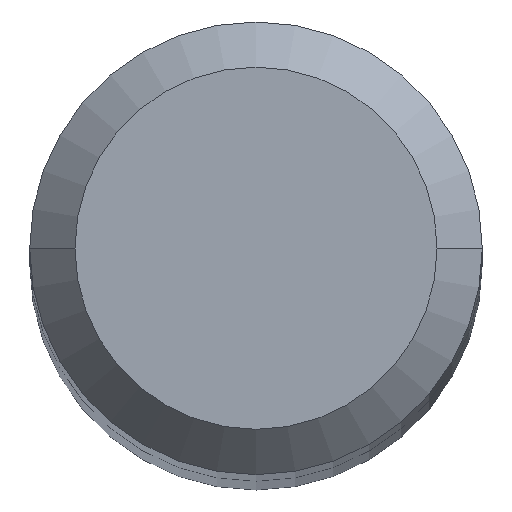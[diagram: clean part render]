
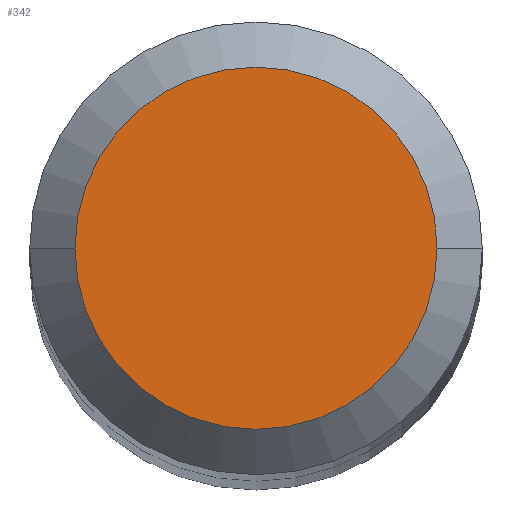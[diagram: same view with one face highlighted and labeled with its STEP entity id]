
A CAD part, top view. The second image highlights one B-rep face of the part: STEP entity #342.
In plain terms, the highlighted planar face has unit normal (0, 0, 1).
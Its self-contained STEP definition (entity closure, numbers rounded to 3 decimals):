
#33 = ORIENTED_EDGE ( 'NONE', *, *, #471, .F. ) ;
#39 = AXIS2_PLACEMENT_3D ( 'NONE', #88, #293, #409 ) ;
#43 = DIRECTION ( 'NONE',  ( 0., 0., -1. ) ) ;
#88 = CARTESIAN_POINT ( 'NONE',  ( 0., 2.4, 0. ) ) ;
#117 = DIRECTION ( 'NONE',  ( -1., 0., 0. ) ) ;
#174 = CIRCLE ( 'NONE', #351, 2.4 ) ;
#202 = FACE_OUTER_BOUND ( 'NONE', #234, .T. ) ;
#220 = CARTESIAN_POINT ( 'NONE',  ( 0., 0., 0. ) ) ;
#234 = EDGE_LOOP ( 'NONE', ( #272, #33 ) ) ;
#241 = VERTEX_POINT ( 'NONE', #260 ) ;
#243 = AXIS2_PLACEMENT_3D ( 'NONE', #298, #443, #117 ) ;
#260 = CARTESIAN_POINT ( 'NONE',  ( -2.4, 0., 0. ) ) ;
#268 = PLANE ( 'NONE',  #39 ) ;
#272 = ORIENTED_EDGE ( 'NONE', *, *, #385, .F. ) ;
#293 = DIRECTION ( 'NONE',  ( 0., 0., 1. ) ) ;
#298 = CARTESIAN_POINT ( 'NONE',  ( 0., 0., 0. ) ) ;
#342 = ADVANCED_FACE ( 'NONE', ( #202 ), #268, .T. ) ;
#351 = AXIS2_PLACEMENT_3D ( 'NONE', #220, #43, #469 ) ;
#364 = CARTESIAN_POINT ( 'NONE',  ( 2.4, 0., 0. ) ) ;
#385 = EDGE_CURVE ( 'NONE', #241, #415, #428, .T. ) ;
#409 = DIRECTION ( 'NONE',  ( 1., 0., 0. ) ) ;
#415 = VERTEX_POINT ( 'NONE', #364 ) ;
#428 = CIRCLE ( 'NONE', #243, 2.4 ) ;
#443 = DIRECTION ( 'NONE',  ( 0., 0., -1. ) ) ;
#469 = DIRECTION ( 'NONE',  ( -1., 0., 0. ) ) ;
#471 = EDGE_CURVE ( 'NONE', #415, #241, #174, .T. ) ;
